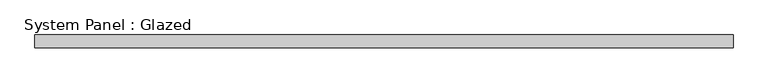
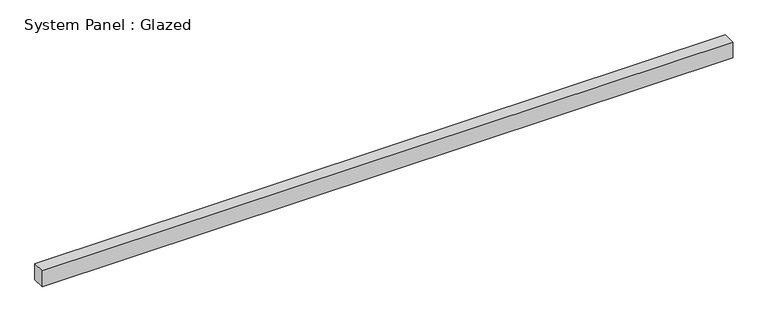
"""IFC4 building model written with IfcOpenShell, lengths in millimetres: plate geometry, System Panel : Glazed."""

import ifcopenshell
import ifcopenshell.guid

model = None  # the IFC model being written
_history = None  # IfcOwnerHistory: only IFC2X3 demands one
_inside = {}  # id of a spatial element -> (the spatial element, [elements in it])
_under = {}  # id of a project, library or spatial element -> (it, [spatial elements below it])
_declared = {}  # id of a project -> (the project, [libraries it declares])
_typed = {}  # id of a type object -> (the type object, [elements of that type])
_made_of = {}  # id of a material, layer set ... -> (it, [elements and type objects made of it])


def new_model(schema):
    """Start an empty IFC model of exactly this schema.

    Asked for "IFC4X3", IfcOpenShell would pick the latest addendum, in which some entities
    have other attributes; the version numbers below select the first issue.
    IFC2X3 requires an IfcOwnerHistory on every rooted entity: one is made here for all.
    """
    global model, _history
    if schema == "IFC4X3":
        model = ifcopenshell.file(schema_version=(4, 3, 0, 0))
    else:
        model = ifcopenshell.file(schema=schema)
    _inside.clear()
    _under.clear()
    _declared.clear()
    _typed.clear()
    _made_of.clear()
    _history = None
    if model.schema == "IFC2X3":
        org = make("IfcOrganization", Name="unknown")
        user = make(
            "IfcPersonAndOrganization",
            ThePerson=make("IfcPerson", FamilyName="unknown"),
            TheOrganization=org,
        )
        app = make(
            "IfcApplication",
            ApplicationDeveloper=org,
            Version="unknown",
            ApplicationFullName="unknown",
            ApplicationIdentifier="unknown",
        )
        _history = make(
            "IfcOwnerHistory",
            OwningUser=user,
            OwningApplication=app,
            ChangeAction="ADDED",
            CreationDate=0,
        )
    return model


def make(cls, **values):
    """One entity of the class cls with the attributes given. An attribute that is None is left unset."""
    return model.create_entity(
        cls, **{name: value for name, value in values.items() if value is not None}
    )


def rooted(cls, **values):
    """An entity with a GlobalId (a new one), such as an element, a storey or a relation."""
    return make(cls, GlobalId=ifcopenshell.guid.new(), OwnerHistory=_history, **values)


def si_unit(unit_type, name, prefix=None):
    """IfcSIUnit, for example si_unit("LENGTHUNIT", "METRE", prefix="MILLI")."""
    return make("IfcSIUnit", UnitType=unit_type, Prefix=prefix, Name=name)


def assignment(units):
    """IfcUnitAssignment: the units of a project."""
    return None if units is None else make("IfcUnitAssignment", Units=units)


def point(xyz):
    """IfcCartesianPoint."""
    return None if xyz is None else make("IfcCartesianPoint", Coordinates=xyz)


def direction(xyz):
    """IfcDirection."""
    return None if xyz is None else make("IfcDirection", DirectionRatios=xyz)


def frame(location, z_axis=None, x_axis=None):
    """IfcAxis2Placement3D, a coordinate frame: its origin and axes. An axis left out is left unset."""
    return make(
        "IfcAxis2Placement3D",
        Location=point(location),
        Axis=direction(z_axis),
        RefDirection=direction(x_axis),
    )


def origin():
    """The frame at (0, 0, 0) with its axes left unset."""
    return frame((0.0, 0.0, 0.0))


def origin_with_axes():
    """The frame at (0, 0, 0) with the z axis (0, 0, 1) and the x axis (1, 0, 0) written out."""
    return frame((0.0, 0.0, 0.0), z_axis=(0.0, 0.0, 1.0), x_axis=(1.0, 0.0, 0.0))


def place(relative_to, where):
    """IfcLocalPlacement: puts the frame where relative to a parent placement (None: the world)."""
    return make(
        "IfcLocalPlacement", PlacementRelTo=relative_to, RelativePlacement=where
    )


def context(
    kind, dimensions, precision=None, world=None, true_north=None, identifier=None
):
    """IfcGeometricRepresentationContext, for example the 3D "Model" context."""
    return make(
        "IfcGeometricRepresentationContext",
        ContextIdentifier=identifier,
        ContextType=kind,
        CoordinateSpaceDimension=dimensions,
        Precision=precision,
        WorldCoordinateSystem=world,
        TrueNorth=true_north,
    )


def project(units=None, contexts=None):
    """IfcProject with its units and contexts."""
    return rooted(
        "IfcProject",
        Name="project",
        RepresentationContexts=contexts,
        UnitsInContext=assignment(units),
    )


def spatial(cls, under=None, at=None, **own):
    """A site, building, storey or space (cls), placed at a placement, below another one or the project."""
    s = rooted(cls, ObjectPlacement=at, **own)
    if under is not None:
        _under.setdefault(under.id(), (under, []))[1].append(s)
    return s


def polyline(points):
    """IfcPolyline through the points."""
    return make("IfcPolyline", Points=[point(p) for p in points])


def outline(outer, holes=None, kind="AREA"):
    """IfcArbitraryClosedProfileDef: a profile drawn as a closed curve; with holes, ...WithVoids."""
    if holes is None:
        return make("IfcArbitraryClosedProfileDef", ProfileType=kind, OuterCurve=outer)
    return make(
        "IfcArbitraryProfileDefWithVoids",
        ProfileType=kind,
        OuterCurve=outer,
        InnerCurves=holes,
    )


def extrude(swept, where, along, depth):
    """IfcExtrudedAreaSolid: the profile swept, set in the frame where, extruded along a direction by depth."""
    return make(
        "IfcExtrudedAreaSolid",
        SweptArea=swept,
        Position=where,
        ExtrudedDirection=direction(along),
        Depth=depth,
    )


def shape(context_of_items, identifier, shape_type, items):
    """IfcShapeRepresentation: the items that make up one representation, for example the "Body"."""
    return make(
        "IfcShapeRepresentation",
        ContextOfItems=context_of_items,
        RepresentationIdentifier=identifier,
        RepresentationType=shape_type,
        Items=items,
    )


def source(mapping_origin, context_of_items, identifier, shape_type, items):
    """IfcRepresentationMap: a shape defined once, which mapped items show again and again."""
    return make(
        "IfcRepresentationMap",
        MappingOrigin=mapping_origin,
        MappedRepresentation=shape(context_of_items, identifier, shape_type, items),
    )


def transform(
    local_origin,
    x_axis=None,
    y_axis=None,
    z_axis=None,
    scale=None,
    scale2=None,
    scale3=None,
    uniform=True,
):
    """IfcCartesianTransformationOperator3D, or its non-uniform kind. x_axis, y_axis, z_axis: its Axis1, 2, 3."""
    if uniform:
        return make(
            "IfcCartesianTransformationOperator3D",
            Axis1=direction(x_axis),
            Axis2=direction(y_axis),
            LocalOrigin=point(local_origin),
            Scale=scale,
            Axis3=direction(z_axis),
        )
    return make(
        "IfcCartesianTransformationOperator3DnonUniform",
        Axis1=direction(x_axis),
        Axis2=direction(y_axis),
        LocalOrigin=point(local_origin),
        Scale=scale,
        Axis3=direction(z_axis),
        Scale2=scale2,
        Scale3=scale3,
    )


def mapped(mapping_source, mapping_target):
    """IfcMappedItem: shows the shape of a source again, moved by a transform."""
    return make(
        "IfcMappedItem", MappingSource=mapping_source, MappingTarget=mapping_target
    )


def made_of(thing, what):
    """Note that an element or type object is made of a material, layer set ...; save() writes the relation."""
    if what is not None:
        _made_of.setdefault(what.id(), (what, []))[1].append(thing)
    return thing


def element(
    cls,
    number,
    at=None,
    inside=None,
    cuts=None,
    type_object=None,
    material=None,
    context=None,
    identifier="Body",
    shape_type=None,
    held_by="IfcProductDefinitionShape",
    body=None,
    shapes=None,
    **own,
):
    """One element of the class cls, such as IfcWall. Its Tag is "e" and its number.

    at: its placement. inside: the storey or other place that contains it. cuts: it is an
    opening in that element (IfcRelVoidsElement). A single representation is given by context,
    identifier, shape_type and body (its items); several are given by shapes. held_by: the class
    of the entity that holds the representations. save() writes the other relations.
    """
    e = rooted(cls, Tag="e%d" % number, ObjectPlacement=at, **own)
    if body is not None:
        shapes = [shape(context, identifier, shape_type, body)]
    if shapes is not None:
        e.Representation = make(held_by, Representations=shapes)
    if inside is not None:
        _inside.setdefault(inside.id(), (inside, []))[1].append(e)
    if cuts is not None:
        rooted(
            "IfcRelVoidsElement", RelatingBuildingElement=cuts, RelatedOpeningElement=e
        )
    if type_object is not None:
        _typed.setdefault(type_object.id(), (type_object, []))[1].append(e)
    return made_of(e, material)


def aggregate(whole, parts):
    """IfcRelAggregates: a whole, such as a stair, and the parts it consists of."""
    return rooted("IfcRelAggregates", RelatingObject=whole, RelatedObjects=parts)


def save(model, path):
    """Write the relations noted so far, then the file.

    IfcRelAggregates (storeys below a building ...), IfcRelContainedInSpatialStructure (elements
    in a storey), IfcRelDefinesByType, IfcRelAssociatesMaterial and IfcRelDeclares: one each for
    every whole, place, type object, material and project.
    """
    for whole, parts in _under.values():
        aggregate(whole, parts)
    for where, things in _inside.values():
        rooted(
            "IfcRelContainedInSpatialStructure",
            RelatedElements=things,
            RelatingStructure=where,
        )
    for kind, things in _typed.values():
        rooted("IfcRelDefinesByType", RelatedObjects=things, RelatingType=kind)
    for what, things in _made_of.values():
        rooted("IfcRelAssociatesMaterial", RelatedObjects=things, RelatingMaterial=what)
    for by, libraries in _declared.values():
        rooted("IfcRelDeclares", RelatingContext=by, RelatedDefinitions=libraries)
    model.write(path)


def system_panel_glazed_e4d20453(model_context):
    return source(origin(), model_context, "Body", "SweptSolid", [
        extrude(outline(polyline([(686.1999999, 24.5), (-686.1999999, 24.5), (-686.1999999, 49.5), (686.1999999, 49.5), (686.1999999, 24.5)])), origin_with_axes(), (0.0, 0.0, 1.0), 33.25),
    ])


if __name__ == "__main__":
    model = new_model("IFC4")
    model_context = context("Model", 3, world=origin())
    ifc_project = project(units=[si_unit("LENGTHUNIT", "METRE", prefix="MILLI")], contexts=[model_context])
    site = spatial("IfcSite", under=ifc_project)
    building = spatial("IfcBuilding", under=site)
    placement = place(None, origin())
    system_panel_glazed_shape = system_panel_glazed_e4d20453(model_context)
    element("IfcPlate", 1, ObjectType="System Panel : Glazed", at=placement, inside=building, context=model_context, shape_type="MappedRepresentation", body=[
        mapped(system_panel_glazed_shape, transform((0.0, 0.0, 0.0), x_axis=(1.0, 0.0, 0.0), y_axis=(0.0, 1.0, 0.0), z_axis=(0.0, 0.0, 1.0))),
    ])
    save(model, "model.ifc")
